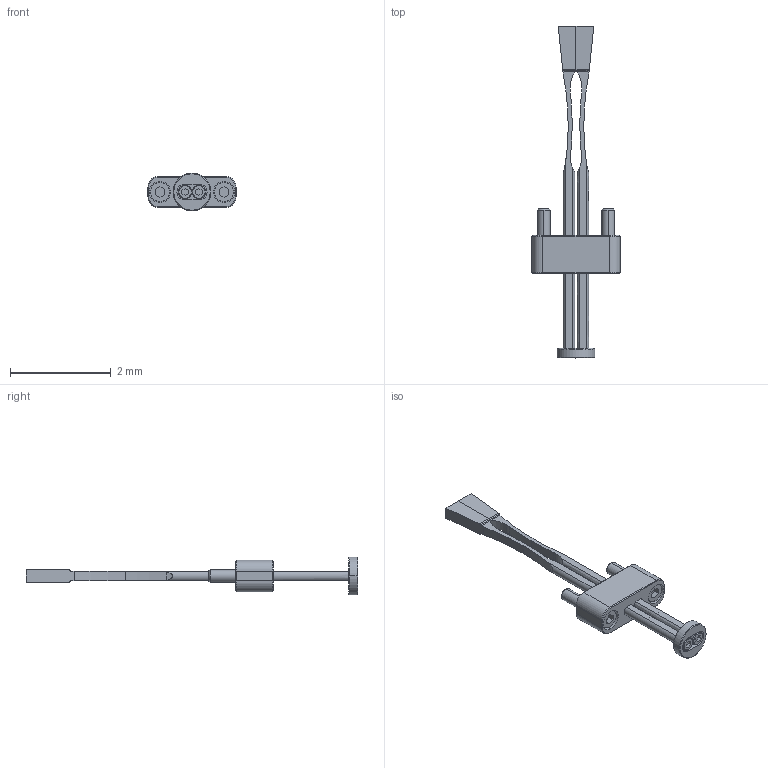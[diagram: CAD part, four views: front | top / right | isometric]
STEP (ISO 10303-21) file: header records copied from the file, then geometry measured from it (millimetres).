
FILE_DESCRIPTION((''),'2;1');
FILE_NAME('FCDA35X24L6.stp','2002-08-31T08:08:09',(''),(''),'AutoCAD STEP 2000i','AutoCAD 2000i',', , ');
FILE_SCHEMA(('CONFIG_CONTROL_DESIGN'));
Length unit declared in the file: millimetre
Products named in the file (1): FCDA35X24L6
Bounding box: 1.75 x 6.59 x 0.75 mm (x, y, z)
Volume: 1.3 mm3; surface area: 23.4 mm2
Topology: 8 solids, 8 shells, 197 faces, 474 edges, 302 vertices
Faces by surface type: plane 73, cylinder 59, bspline 35, cone 26, torus 4
Entity records: 6512 total; most frequent: CARTESIAN_POINT 1825, DIRECTION 964, ORIENTED_EDGE 940, EDGE_CURVE 470, AXIS2_PLACEMENT_3D 351, VERTEX_POINT 302, VECTOR 262, LINE 262
